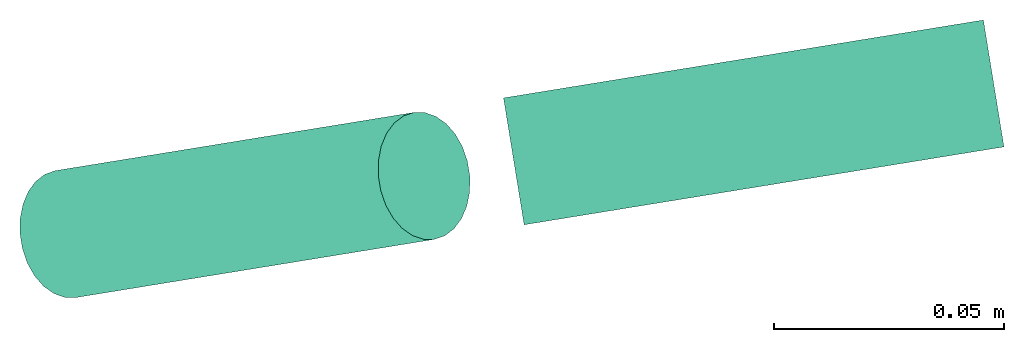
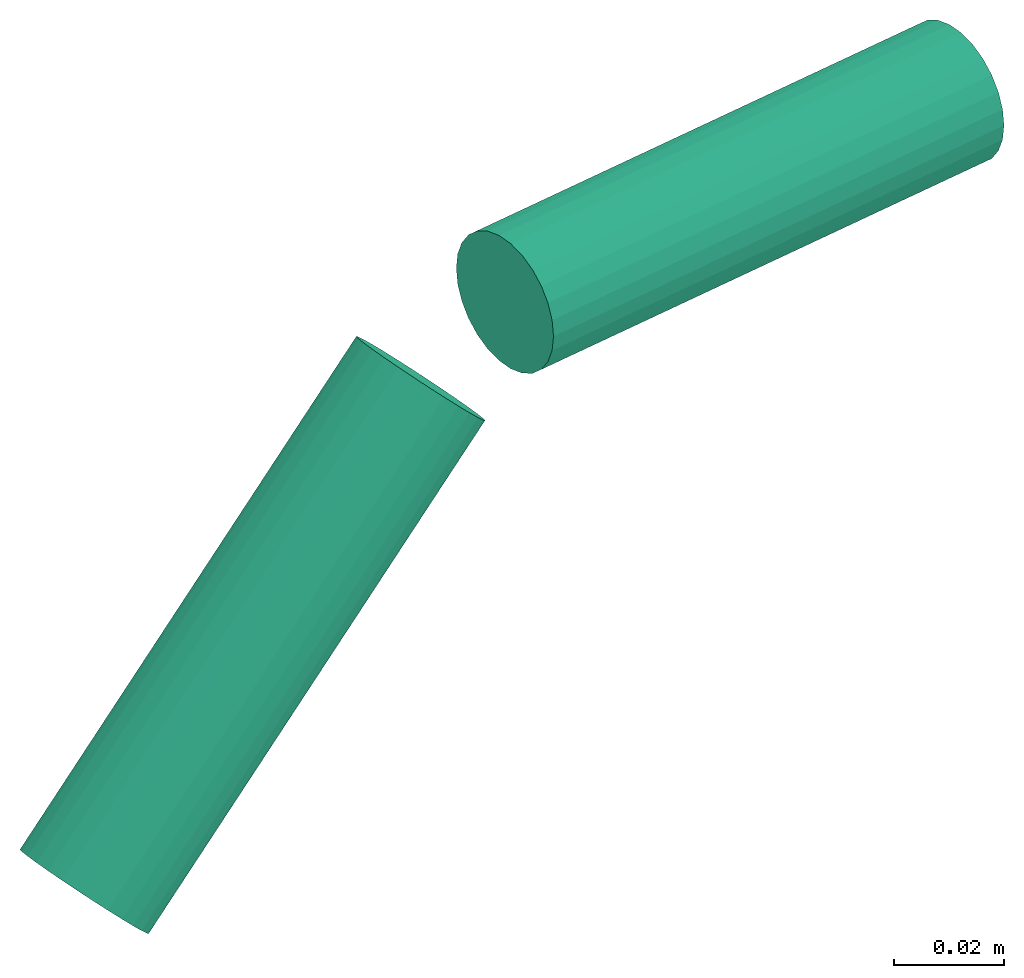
# One storey: 2 flow segments.
"""IFC2X3 building model written with IfcOpenShell, lengths in millimetres."""

from ifc_helpers import new_model, entity, si_unit, converted_unit, derived_unit, direction, frame, origin, origin_with_axes, origin_2d_with_axis, place, context, subcontext, project, spatial, circle, extrude, type_object, element, save


model = new_model("IFC2X3")

# Units and contexts
plan_context = context("Plan", 3, precision=1e-05, world=origin_with_axes())
model_context = context("Model", 3, precision=0.01, world=origin(), true_north=direction((6.12323399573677e-17, 1.0)))
body_context = subcontext(model_context, "Body", "Model", "MODEL_VIEW")
ifc_project = project(units=[converted_unit("PLANEANGLEUNIT", "DEGREE", entity("IfcPositiveLengthMeasure", 0.0174532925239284), si_unit("PLANEANGLEUNIT", "RADIAN"), dimensions=[0, 0, 0, 0, 0, 0, 0]), si_unit("AREAUNIT", "SQUARE_METRE"), si_unit("LENGTHUNIT", "METRE", prefix="MILLI"), si_unit("MASSUNIT", "GRAM", prefix="KILO"), si_unit("POWERUNIT", "WATT"), si_unit("PRESSUREUNIT", "PASCAL", prefix="KILO"), si_unit("FORCEUNIT", "NEWTON", prefix="KILO"), si_unit("ELECTRICVOLTAGEUNIT", "VOLT"), si_unit("ELECTRICCURRENTUNIT", "AMPERE"), si_unit("THERMODYNAMICTEMPERATUREUNIT", "DEGREE_CELSIUS"), si_unit("TIMEUNIT", "SECOND"), si_unit("VOLUMEUNIT", "CUBIC_METRE"), derived_unit("LINEARVELOCITYUNIT", [(si_unit("LENGTHUNIT", "METRE"), 1), (si_unit("TIMEUNIT", "SECOND"), -1)]), derived_unit("VOLUMETRICFLOWRATEUNIT", [(si_unit("VOLUMEUNIT", "CUBIC_METRE"), 1), (si_unit("TIMEUNIT", "SECOND"), -1)]), derived_unit("THERMALTRANSMITTANCEUNIT", [(si_unit("POWERUNIT", "WATT"), 1), (si_unit("THERMODYNAMICTEMPERATUREUNIT", "KELVIN"), -1), (si_unit("AREAUNIT", "SQUARE_METRE"), -1)]), derived_unit("SOUNDPRESSUREUNIT", [(si_unit("PRESSUREUNIT", "PASCAL"), 1)])], contexts=[model_context, plan_context])

# Site, building, storey
site_placement = place(None, frame((-0.000710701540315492, 0.00438415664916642, 0.0), z_axis=(0.0, 0.0, 1.0), x_axis=(-0.160236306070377, 0.987078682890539, 0.0)))
site = spatial("IfcSite", under=ifc_project, at=site_placement, Name="Default", CompositionType="ELEMENT")
building_placement = place(site_placement, origin_with_axes())
building = spatial("IfcBuilding", under=site, at=building_placement, CompositionType="ELEMENT")
storey_placement = place(building_placement, frame((0.0, 0.0, 44699.9999999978), z_axis=(0.0, 0.0, 1.0), x_axis=(1.0, 0.0, 0.0)))
storey = spatial("IfcBuildingStorey", under=building, at=storey_placement, Name="Nivå B", CompositionType="ELEMENT", Elevation=44699.9999999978)

# Flow segments
pipe_segment_type = type_object("IfcPipeSegmentType", Name="Pipe Types:Kobberrør", PredefinedType="NOTDEFINED")
flow_segment_1_placement = place(storey_placement, origin_with_axes())
element("IfcFlowSegment", 1, at=flow_segment_1_placement, inside=storey, type_object=pipe_segment_type, Name="Pipe Types:Kobberrør", ObjectType="Pipe Types:Kobberrør", context=body_context, shape_type="SweptSolid", body=[
    extrude(circle(Radius=14.0, at=origin_2d_with_axis()), frame((778358.619644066, -503157.9312839, 17067.2584053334), z_axis=(0.0, 0.707106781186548, -0.707106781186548), x_axis=(-1.0, 0.0, 0.0)), (0.0, 0.0, 1.0), 111.804040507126),
])
flow_segment_2_placement = place(storey_placement, origin_with_axes())
element("IfcFlowSegment", 2, at=flow_segment_2_placement, inside=storey, type_object=pipe_segment_type, Name="Pipe Types:Kobberrør", ObjectType="Pipe Types:Kobberrør", context=body_context, shape_type="SweptSolid", body=[
    extrude(circle(Radius=14.0, at=origin_2d_with_axis()), frame((778358.619644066, -503283.61548336, 17075.4594154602), z_axis=(0.0, 1.0, 0.0), x_axis=(-1.0, 0.0, 0.0)), (0.0, 0.0, 1.0), 105.885209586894),
])

save(model, "model.ifc")
